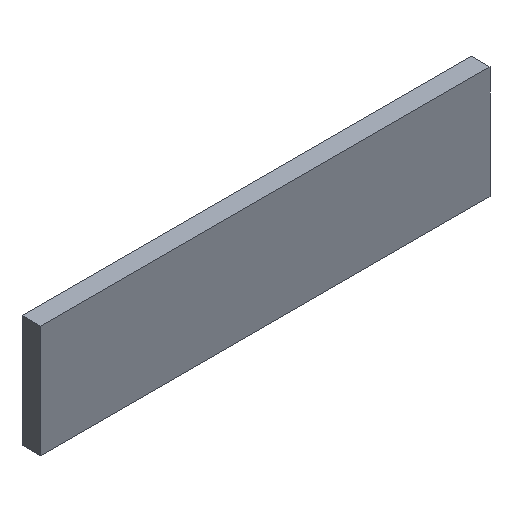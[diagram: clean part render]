
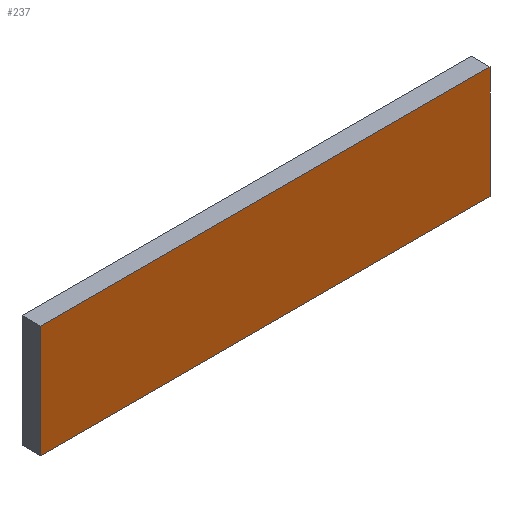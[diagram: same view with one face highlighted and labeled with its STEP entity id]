
A CAD part, isometric view. The second image highlights one B-rep face of the part: STEP entity #237.
In plain terms, the highlighted planar face has unit normal (0, -1, 0).
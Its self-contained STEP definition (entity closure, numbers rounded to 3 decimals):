
#21 = EDGE_CURVE('',#22,#24,#26,.T.);
#22 = VERTEX_POINT('',#23);
#23 = CARTESIAN_POINT('',(-22.5,222.,75.));
#24 = VERTEX_POINT('',#25);
#25 = CARTESIAN_POINT('',(-22.5,222.,87.));
#26 = SURFACE_CURVE('',#27,(#31,#43),.PCURVE_S1.);
#27 = LINE('',#28,#29);
#28 = CARTESIAN_POINT('',(-22.5,222.,75.));
#29 = VECTOR('',#30,1.);
#30 = DIRECTION('',(0.,0.,1.));
#31 = PCURVE('',#32,#37);
#32 = PLANE('',#33);
#33 = AXIS2_PLACEMENT_3D('',#34,#35,#36);
#34 = CARTESIAN_POINT('',(-22.5,222.,75.));
#35 = DIRECTION('',(1.,0.,-0.));
#36 = DIRECTION('',(0.,0.,1.));
#37 = DEFINITIONAL_REPRESENTATION('',(#38),#42);
#38 = LINE('',#39,#40);
#39 = CARTESIAN_POINT('',(0.,0.));
#40 = VECTOR('',#41,1.);
#41 = DIRECTION('',(1.,0.));
#42 = ( GEOMETRIC_REPRESENTATION_CONTEXT(2) 
PARAMETRIC_REPRESENTATION_CONTEXT() REPRESENTATION_CONTEXT('2D SPACE',''
  ) );
#43 = PCURVE('',#44,#49);
#44 = PLANE('',#45);
#45 = AXIS2_PLACEMENT_3D('',#46,#47,#48);
#46 = CARTESIAN_POINT('',(-22.5,222.,75.));
#47 = DIRECTION('',(-0.,1.,0.));
#48 = DIRECTION('',(0.,0.,1.));
#49 = DEFINITIONAL_REPRESENTATION('',(#50),#54);
#50 = LINE('',#51,#52);
#51 = CARTESIAN_POINT('',(0.,0.));
#52 = VECTOR('',#53,1.);
#53 = DIRECTION('',(1.,0.));
#54 = ( GEOMETRIC_REPRESENTATION_CONTEXT(2) 
PARAMETRIC_REPRESENTATION_CONTEXT() REPRESENTATION_CONTEXT('2D SPACE',''
  ) );
#72 = PLANE('',#73);
#73 = AXIS2_PLACEMENT_3D('',#74,#75,#76);
#74 = CARTESIAN_POINT('',(-22.5,222.,75.));
#75 = DIRECTION('',(0.,0.,1.));
#76 = DIRECTION('',(1.,0.,-0.));
#126 = PLANE('',#127);
#127 = AXIS2_PLACEMENT_3D('',#128,#129,#130);
#128 = CARTESIAN_POINT('',(-22.5,222.,87.));
#129 = DIRECTION('',(0.,0.,1.));
#130 = DIRECTION('',(1.,0.,-0.));
#141 = EDGE_CURVE('',#142,#144,#146,.T.);
#142 = VERTEX_POINT('',#143);
#143 = CARTESIAN_POINT('',(25.5,222.,75.));
#144 = VERTEX_POINT('',#145);
#145 = CARTESIAN_POINT('',(25.5,222.,87.));
#146 = SURFACE_CURVE('',#147,(#151,#163),.PCURVE_S1.);
#147 = LINE('',#148,#149);
#148 = CARTESIAN_POINT('',(25.5,222.,75.));
#149 = VECTOR('',#150,1.);
#150 = DIRECTION('',(0.,0.,1.));
#151 = PCURVE('',#152,#157);
#152 = PLANE('',#153);
#153 = AXIS2_PLACEMENT_3D('',#154,#155,#156);
#154 = CARTESIAN_POINT('',(25.5,222.,75.));
#155 = DIRECTION('',(1.,0.,-0.));
#156 = DIRECTION('',(0.,0.,1.));
#157 = DEFINITIONAL_REPRESENTATION('',(#158),#162);
#158 = LINE('',#159,#160);
#159 = CARTESIAN_POINT('',(0.,0.));
#160 = VECTOR('',#161,1.);
#161 = DIRECTION('',(1.,0.));
#162 = ( GEOMETRIC_REPRESENTATION_CONTEXT(2) 
PARAMETRIC_REPRESENTATION_CONTEXT() REPRESENTATION_CONTEXT('2D SPACE',''
  ) );
#163 = PCURVE('',#44,#164);
#164 = DEFINITIONAL_REPRESENTATION('',(#165),#169);
#165 = LINE('',#166,#167);
#166 = CARTESIAN_POINT('',(0.,48.));
#167 = VECTOR('',#168,1.);
#168 = DIRECTION('',(1.,0.));
#169 = ( GEOMETRIC_REPRESENTATION_CONTEXT(2) 
PARAMETRIC_REPRESENTATION_CONTEXT() REPRESENTATION_CONTEXT('2D SPACE',''
  ) );
#237 = ADVANCED_FACE('',(#238),#44,.F.);
#238 = FACE_BOUND('',#239,.F.);
#239 = EDGE_LOOP('',(#240,#261,#262,#283));
#240 = ORIENTED_EDGE('',*,*,#241,.F.);
#241 = EDGE_CURVE('',#22,#142,#242,.T.);
#242 = SURFACE_CURVE('',#243,(#247,#254),.PCURVE_S1.);
#243 = LINE('',#244,#245);
#244 = CARTESIAN_POINT('',(-22.5,222.,75.));
#245 = VECTOR('',#246,1.);
#246 = DIRECTION('',(1.,0.,-0.));
#247 = PCURVE('',#44,#248);
#248 = DEFINITIONAL_REPRESENTATION('',(#249),#253);
#249 = LINE('',#250,#251);
#250 = CARTESIAN_POINT('',(0.,0.));
#251 = VECTOR('',#252,1.);
#252 = DIRECTION('',(0.,1.));
#253 = ( GEOMETRIC_REPRESENTATION_CONTEXT(2) 
PARAMETRIC_REPRESENTATION_CONTEXT() REPRESENTATION_CONTEXT('2D SPACE',''
  ) );
#254 = PCURVE('',#72,#255);
#255 = DEFINITIONAL_REPRESENTATION('',(#256),#260);
#256 = LINE('',#257,#258);
#257 = CARTESIAN_POINT('',(0.,0.));
#258 = VECTOR('',#259,1.);
#259 = DIRECTION('',(1.,0.));
#260 = ( GEOMETRIC_REPRESENTATION_CONTEXT(2) 
PARAMETRIC_REPRESENTATION_CONTEXT() REPRESENTATION_CONTEXT('2D SPACE',''
  ) );
#261 = ORIENTED_EDGE('',*,*,#21,.T.);
#262 = ORIENTED_EDGE('',*,*,#263,.T.);
#263 = EDGE_CURVE('',#24,#144,#264,.T.);
#264 = SURFACE_CURVE('',#265,(#269,#276),.PCURVE_S1.);
#265 = LINE('',#266,#267);
#266 = CARTESIAN_POINT('',(-22.5,222.,87.));
#267 = VECTOR('',#268,1.);
#268 = DIRECTION('',(1.,0.,-0.));
#269 = PCURVE('',#44,#270);
#270 = DEFINITIONAL_REPRESENTATION('',(#271),#275);
#271 = LINE('',#272,#273);
#272 = CARTESIAN_POINT('',(12.,0.));
#273 = VECTOR('',#274,1.);
#274 = DIRECTION('',(0.,1.));
#275 = ( GEOMETRIC_REPRESENTATION_CONTEXT(2) 
PARAMETRIC_REPRESENTATION_CONTEXT() REPRESENTATION_CONTEXT('2D SPACE',''
  ) );
#276 = PCURVE('',#126,#277);
#277 = DEFINITIONAL_REPRESENTATION('',(#278),#282);
#278 = LINE('',#279,#280);
#279 = CARTESIAN_POINT('',(0.,0.));
#280 = VECTOR('',#281,1.);
#281 = DIRECTION('',(1.,0.));
#282 = ( GEOMETRIC_REPRESENTATION_CONTEXT(2) 
PARAMETRIC_REPRESENTATION_CONTEXT() REPRESENTATION_CONTEXT('2D SPACE',''
  ) );
#283 = ORIENTED_EDGE('',*,*,#141,.F.);
